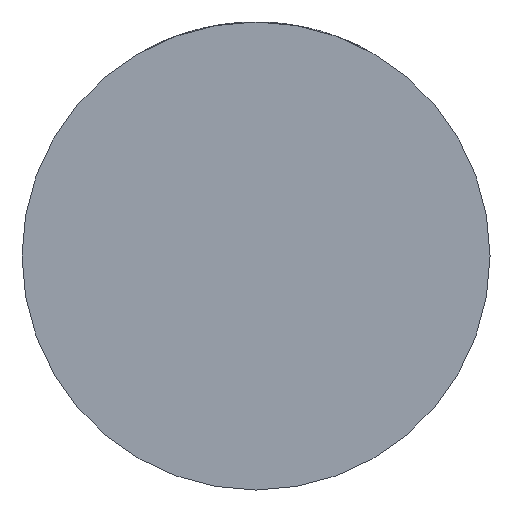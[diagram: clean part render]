
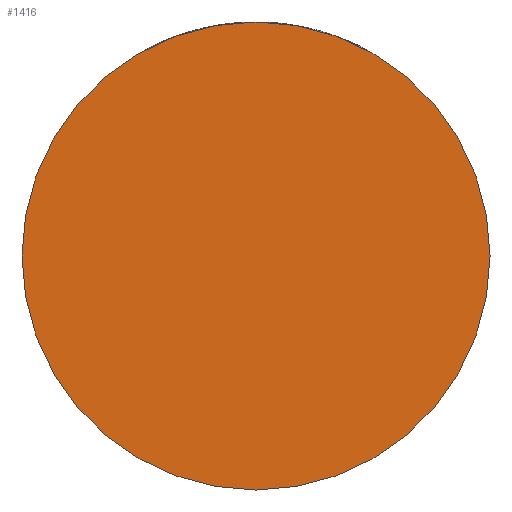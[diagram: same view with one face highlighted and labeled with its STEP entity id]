
A CAD part, front view. The second image highlights one B-rep face of the part: STEP entity #1416.
In plain terms, the highlighted planar face has unit normal (0, -1, 0).
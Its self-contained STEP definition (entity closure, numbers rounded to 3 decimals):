
#206 = ORIENTED_EDGE ( 'NONE', *, *, #208, .T. ) ;
#208 = EDGE_CURVE ( 'NONE', #1769, #3942, #2724, .T. ) ;
#295 = CARTESIAN_POINT ( 'NONE',  ( 0., -36., 0. ) ) ;
#379 = CARTESIAN_POINT ( 'NONE',  ( -45., -36., 0. ) ) ;
#455 = ORIENTED_EDGE ( 'NONE', *, *, #1471, .T. ) ;
#485 = DIRECTION ( 'NONE',  ( 1., 0., 0. ) ) ;
#748 = CARTESIAN_POINT ( 'NONE',  ( 45., -36., 0. ) ) ;
#865 = CIRCLE ( 'NONE', #1275, 45. ) ;
#1275 = AXIS2_PLACEMENT_3D ( 'NONE', #3222, #3948, #485 ) ;
#1416 = ADVANCED_FACE ( 'NONE', ( #1792 ), #1458, .T. ) ;
#1458 = PLANE ( 'NONE',  #3169 ) ;
#1471 = EDGE_CURVE ( 'NONE', #3942, #1769, #865, .T. ) ;
#1758 = DIRECTION ( 'NONE',  ( 1., 0., 0. ) ) ;
#1769 = VERTEX_POINT ( 'NONE', #748 ) ;
#1778 = DIRECTION ( 'NONE',  ( 0., -1., 0. ) ) ;
#1792 = FACE_OUTER_BOUND ( 'NONE', #2043, .T. ) ;
#1911 = DIRECTION ( 'NONE',  ( 1., 0., 0. ) ) ;
#2043 = EDGE_LOOP ( 'NONE', ( #455, #206 ) ) ;
#2085 = DIRECTION ( 'NONE',  ( 0., -1., 0. ) ) ;
#2117 = AXIS2_PLACEMENT_3D ( 'NONE', #295, #1778, #1758 ) ;
#2724 = CIRCLE ( 'NONE', #2117, 45. ) ;
#2851 = CARTESIAN_POINT ( 'NONE',  ( 0., -36., 0. ) ) ;
#3169 = AXIS2_PLACEMENT_3D ( 'NONE', #2851, #2085, #1911 ) ;
#3222 = CARTESIAN_POINT ( 'NONE',  ( 0., -36., 0. ) ) ;
#3942 = VERTEX_POINT ( 'NONE', #379 ) ;
#3948 = DIRECTION ( 'NONE',  ( 0., -1., 0. ) ) ;
